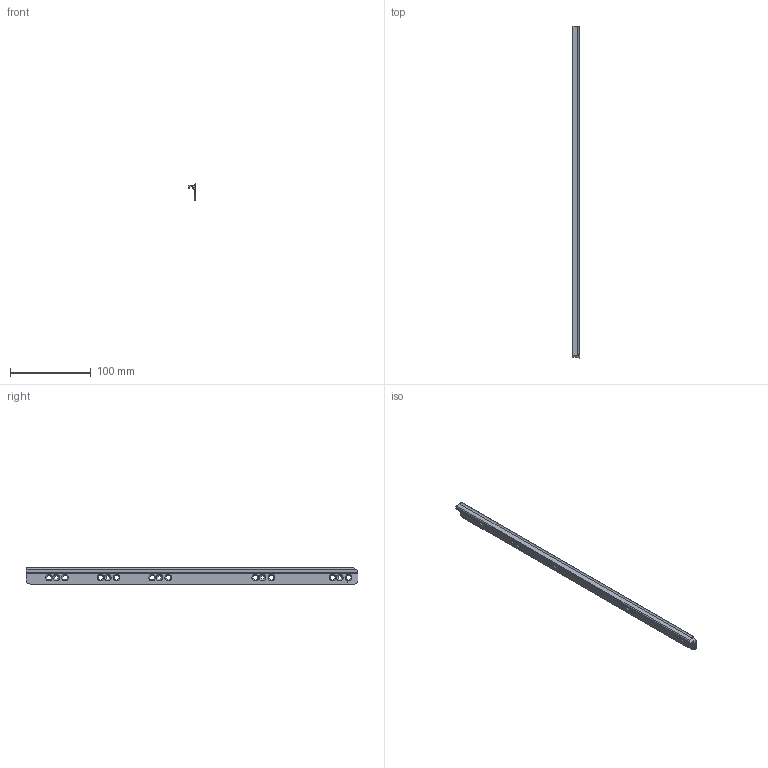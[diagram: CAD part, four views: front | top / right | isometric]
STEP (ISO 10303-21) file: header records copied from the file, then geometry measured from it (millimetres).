
FILE_DESCRIPTION (( 'STEP AP214' ), '1' );
FILE_NAME ('Zahnstange-rechts_NL400_K760018100.step', '2010-09-22T07:56:41', ( 'grass' ), ( '' ), 'SwSTEP 2.0', 'SolidWorks 2010', '' );
FILE_SCHEMA (( 'AUTOMOTIVE_DESIGN' ));
Length unit declared in the file: millimetre
Products named in the file (1): Zahnstange-rechts_NL400_K760018100
Bounding box: 9.5 x 412 x 20 mm (x, y, z)
Volume: 25151.2 mm3; surface area: 24777.7 mm2
Topology: 1 solids, 1 shells, 100 faces, 248 edges, 149 vertices
Faces by surface type: cylinder 54, cone 30, plane 16
Entity records: 3049 total; most frequent: DIRECTION 558, CARTESIAN_POINT 519, ORIENTED_EDGE 496, EDGE_CURVE 248, AXIS2_PLACEMENT_3D 216, VERTEX_POINT 149, EDGE_LOOP 129, VECTOR 126
